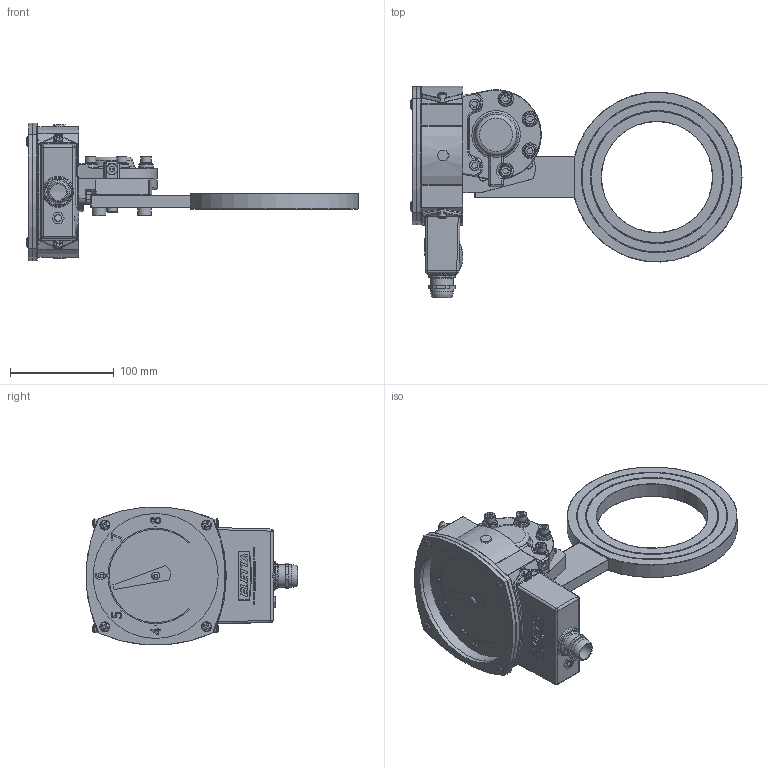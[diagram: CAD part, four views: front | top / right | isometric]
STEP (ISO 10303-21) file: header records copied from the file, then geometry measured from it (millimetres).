
FILE_DESCRIPTION(/* description */ ('Alibre Inc.'),/* implementation_level */ '2;1');
FILE_NAME(/* name */ 'export0',/* time_stamp */ '2012-10-19T10:53:45+02:00',/* author */ (''),/* organization */ (''),/* preprocessor_version */ 'ST-DEVELOPER v14',/* originating_system */ 'Alibre',/* authorisation */ '');
FILE_SCHEMA (('CONFIG_CONTROL_DESIGN'));
Length unit declared in the file: centimetre
Products named in the file (19): ID_1; ID_2; ID_3; ID_4; ID_5; ID_6; ID_7; ID_8; ID_9; ID_10; ID_11; ID_12; ID_13; ID_14; ID_15
Bounding box: 320.11 x 204.33 x 132.76 mm (x, y, z)
Volume: 648521.9 mm3; surface area: 256930.9 mm2
Topology: 31 solids, 31 shells, 1723 faces, 4150 edges, 2558 vertices
Faces by surface type: plane 766, bspline 365, cylinder 322, torus 158, cone 86, sphere 26
Full cylindrical faces by diameter (mm): 3.9 x2, 5 x18, 5.2 x2, 5.5 x5, 5.541 x2, 6 x28, 6.35 x2, 6.5 x7, 8 x7, 8.5 x2, 9.6 x6, 10 x11, 10.5 x1, 12 x3, 13 x2, 14 x3, 16 x1, 19.5 x1, 22 x2, 22.5 x4, 25 x1, 29 x1, 31 x1, 107 x1, 120.5 x3, 123.4 x1, 127 x2, 128 x2, 129 x1, 145 x2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
Entity records: 60556 total; most frequent: CARTESIAN_POINT 28551, ORIENTED_EDGE 6474, DIRECTION 4845, EDGE_CURVE 3237, VERTEX_POINT 2118, AXIS2_PLACEMENT_3D 2016, EDGE_LOOP 1787, FACE_BOUND 1787
